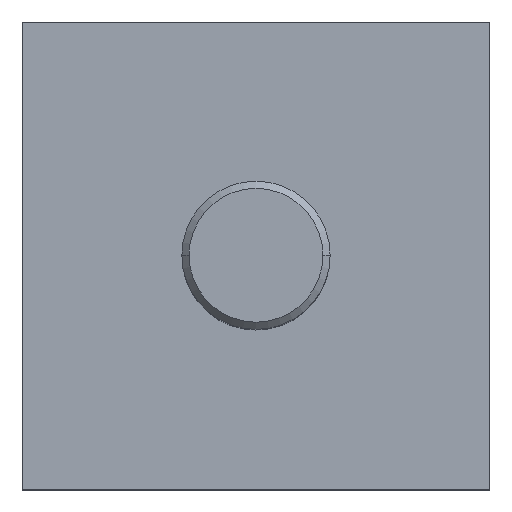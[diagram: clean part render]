
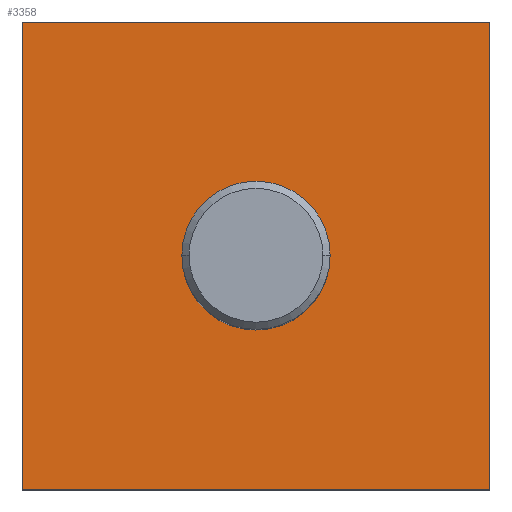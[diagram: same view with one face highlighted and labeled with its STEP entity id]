
A CAD part, top view. The second image highlights one B-rep face of the part: STEP entity #3358.
In plain terms, the highlighted planar face has unit normal (0, 0, 1).
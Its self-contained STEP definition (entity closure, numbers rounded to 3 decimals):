
#235 = CARTESIAN_POINT ( 'NONE',  ( -32.5, -32.5, 15. ) ) ;
#324 = ORIENTED_EDGE ( 'NONE', *, *, #2329, .F. ) ;
#354 = EDGE_LOOP ( 'NONE', ( #1537, #3651 ) ) ;
#403 = AXIS2_PLACEMENT_3D ( 'NONE', #4000, #2041, #1437 ) ;
#410 = PLANE ( 'NONE',  #1884 ) ;
#416 = LINE ( 'NONE', #3406, #1844 ) ;
#449 = DIRECTION ( 'NONE',  ( 0., 0., 1. ) ) ;
#646 = VERTEX_POINT ( 'NONE', #952 ) ;
#732 = CARTESIAN_POINT ( 'NONE',  ( 0., 0., 15. ) ) ;
#747 = ORIENTED_EDGE ( 'NONE', *, *, #2555, .F. ) ;
#789 = CARTESIAN_POINT ( 'NONE',  ( -32.5, -32.5, 15. ) ) ;
#839 = EDGE_CURVE ( 'NONE', #914, #646, #1764, .T. ) ;
#908 = DIRECTION ( 'NONE',  ( -1., 0., 0. ) ) ;
#914 = VERTEX_POINT ( 'NONE', #1842 ) ;
#952 = CARTESIAN_POINT ( 'NONE',  ( -10.3, 0., 15. ) ) ;
#960 = CARTESIAN_POINT ( 'NONE',  ( 32.5, -32.5, 15. ) ) ;
#1064 = DIRECTION ( 'NONE',  ( 0., 0., 1. ) ) ;
#1183 = VECTOR ( 'NONE', #908, 1000. ) ;
#1236 = DIRECTION ( 'NONE',  ( 0., 1., 0. ) ) ;
#1260 = LINE ( 'NONE', #235, #2135 ) ;
#1281 = CIRCLE ( 'NONE', #403, 10.3 ) ;
#1336 = CARTESIAN_POINT ( 'NONE',  ( -32.5, 32.5, 15. ) ) ;
#1437 = DIRECTION ( 'NONE',  ( 1., 0., 0. ) ) ;
#1537 = ORIENTED_EDGE ( 'NONE', *, *, #3942, .F. ) ;
#1567 = CARTESIAN_POINT ( 'NONE',  ( -32.5, -32.5, 15. ) ) ;
#1664 = DIRECTION ( 'NONE',  ( 1., 0., 0. ) ) ;
#1689 = EDGE_CURVE ( 'NONE', #2731, #2025, #3889, .T. ) ;
#1716 = DIRECTION ( 'NONE',  ( 1., 0., 0. ) ) ;
#1764 = CIRCLE ( 'NONE', #3414, 10.3 ) ;
#1842 = CARTESIAN_POINT ( 'NONE',  ( 10.3, 0., 15. ) ) ;
#1844 = VECTOR ( 'NONE', #4053, 1000. ) ;
#1884 = AXIS2_PLACEMENT_3D ( 'NONE', #732, #1064, #1664 ) ;
#2011 = FACE_BOUND ( 'NONE', #354, .T. ) ;
#2025 = VERTEX_POINT ( 'NONE', #789 ) ;
#2041 = DIRECTION ( 'NONE',  ( 0., 0., 1. ) ) ;
#2135 = VECTOR ( 'NONE', #1236, 1000. ) ;
#2276 = VERTEX_POINT ( 'NONE', #2346 ) ;
#2280 = LINE ( 'NONE', #1336, #3113 ) ;
#2329 = EDGE_CURVE ( 'NONE', #2276, #3901, #2280, .T. ) ;
#2346 = CARTESIAN_POINT ( 'NONE',  ( -32.5, 32.5, 15. ) ) ;
#2401 = FACE_OUTER_BOUND ( 'NONE', #3372, .T. ) ;
#2555 = EDGE_CURVE ( 'NONE', #2025, #2276, #1260, .T. ) ;
#2731 = VERTEX_POINT ( 'NONE', #960 ) ;
#2849 = EDGE_CURVE ( 'NONE', #3901, #2731, #416, .T. ) ;
#2957 = ORIENTED_EDGE ( 'NONE', *, *, #2849, .F. ) ;
#3113 = VECTOR ( 'NONE', #1716, 1000. ) ;
#3213 = ORIENTED_EDGE ( 'NONE', *, *, #1689, .F. ) ;
#3334 = DIRECTION ( 'NONE',  ( 1., 0., 0. ) ) ;
#3358 = ADVANCED_FACE ( 'NONE', ( #2401, #2011 ), #410, .T. ) ;
#3372 = EDGE_LOOP ( 'NONE', ( #2957, #324, #747, #3213 ) ) ;
#3406 = CARTESIAN_POINT ( 'NONE',  ( 32.5, -32.5, 15. ) ) ;
#3414 = AXIS2_PLACEMENT_3D ( 'NONE', #3421, #449, #3334 ) ;
#3421 = CARTESIAN_POINT ( 'NONE',  ( 0., 0., 15. ) ) ;
#3651 = ORIENTED_EDGE ( 'NONE', *, *, #839, .F. ) ;
#3757 = CARTESIAN_POINT ( 'NONE',  ( 32.5, 32.5, 15. ) ) ;
#3889 = LINE ( 'NONE', #1567, #1183 ) ;
#3901 = VERTEX_POINT ( 'NONE', #3757 ) ;
#3942 = EDGE_CURVE ( 'NONE', #646, #914, #1281, .T. ) ;
#4000 = CARTESIAN_POINT ( 'NONE',  ( 0., 0., 15. ) ) ;
#4053 = DIRECTION ( 'NONE',  ( 0., -1., 0. ) ) ;
